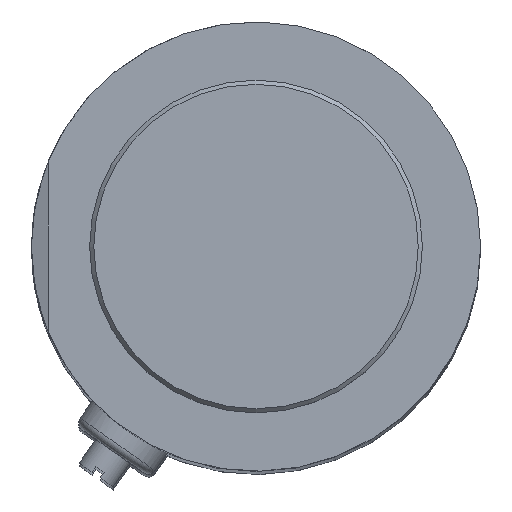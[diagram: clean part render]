
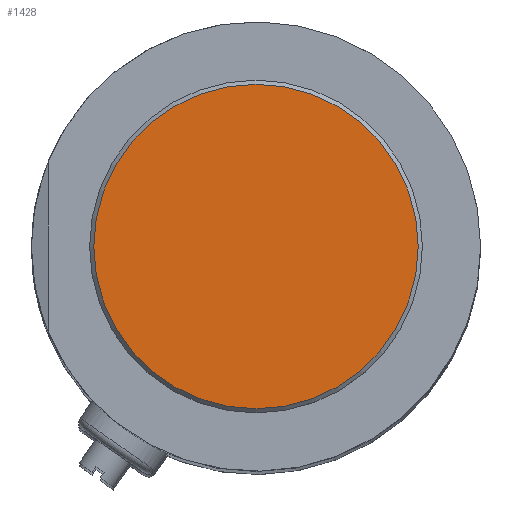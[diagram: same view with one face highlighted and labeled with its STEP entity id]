
A CAD part, top view. The second image highlights one B-rep face of the part: STEP entity #1428.
In plain terms, the highlighted planar face has unit normal (0, 0, 1) as drawn and (-1, 0, 0) by its records, which use the part's own axes.
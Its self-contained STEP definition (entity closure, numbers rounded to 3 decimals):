
#282=PLANE('',#1606);
#426=FACE_OUTER_BOUND('',#573,.T.);
#573=EDGE_LOOP('',(#1213));
#658=CIRCLE('',#1605,19.5);
#766=VERTEX_POINT('',#2484);
#922=EDGE_CURVE('',#766,#766,#658,.T.);
#1213=ORIENTED_EDGE('',*,*,#922,.T.);
#1428=ADVANCED_FACE('',(#426),#282,.T.);
#1605=AXIS2_PLACEMENT_3D('',#2485,#1973,#1974);
#1606=AXIS2_PLACEMENT_3D('',#2486,#1975,#1976);
#1973=DIRECTION('center_axis',(-1.,0.,0.));
#1974=DIRECTION('ref_axis',(0.,0.,1.));
#1975=DIRECTION('center_axis',(-1.,0.,0.));
#1976=DIRECTION('ref_axis',(0.,0.,1.));
#2484=CARTESIAN_POINT('',(-23.,0.,19.5));
#2485=CARTESIAN_POINT('Origin',(-23.,0.,0.));
#2486=CARTESIAN_POINT('Origin',(-23.,0.,0.));
